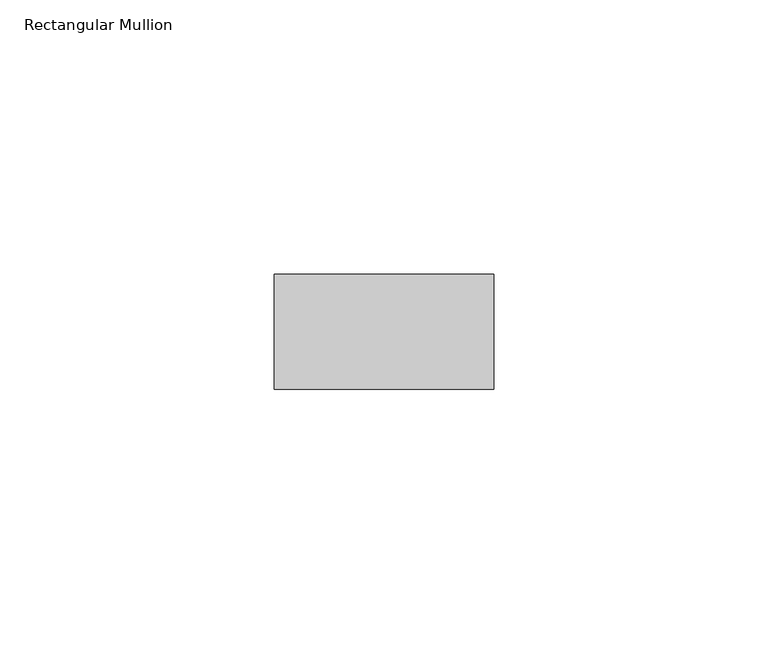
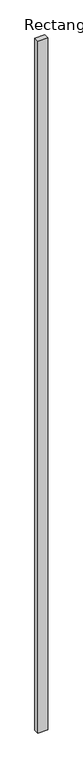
"""IFC4 building model written with IfcOpenShell, lengths in millimetres: member geometry, Rectangular Mullion : RSen_21_CWM_support profile - 40x21 - left_gen_duco projects."""

from ifc_helpers import new_model, si_unit, frame, origin, place, context, project, spatial, polyline, outline, extrude, source, transform, mapped, element, save


def rectangular_mullion_e97d66ff(model_context):
    return source(origin(), model_context, "Body", "SweptSolid", [
        extrude(outline(polyline([(-50.0, 1.0), (-50.0, -20.0), (-90.0, -20.0), (-90.0, 1.0), (-50.0, 1.0)])), frame((0.0, 0.0, -3000.0), z_axis=(0.0, 0.0, 1.0), x_axis=(1.0, 0.0, 0.0)), (0.0, 0.0, 1.0), 3000.0),
    ])


if __name__ == "__main__":
    model = new_model("IFC4")
    model_context = context("Model", 3, world=origin())
    ifc_project = project(units=[si_unit("LENGTHUNIT", "METRE", prefix="MILLI")], contexts=[model_context])
    site = spatial("IfcSite", under=ifc_project)
    building = spatial("IfcBuilding", under=site)
    placement = place(None, origin())
    rectangular_mullion_shape = rectangular_mullion_e97d66ff(model_context)
    element("IfcMember", 1, ObjectType="Rectangular Mullion : RSen_21_CWM_support profile - 40x21 - left_gen_duco projects", at=placement, inside=building, context=model_context, shape_type="MappedRepresentation", body=[
        mapped(rectangular_mullion_shape, transform((0.0, 0.0, 0.0), x_axis=(1.0, 0.0, 0.0), y_axis=(0.0, 1.0, 0.0), z_axis=(0.0, 0.0, 1.0))),
    ])
    save(model, "model.ifc")
